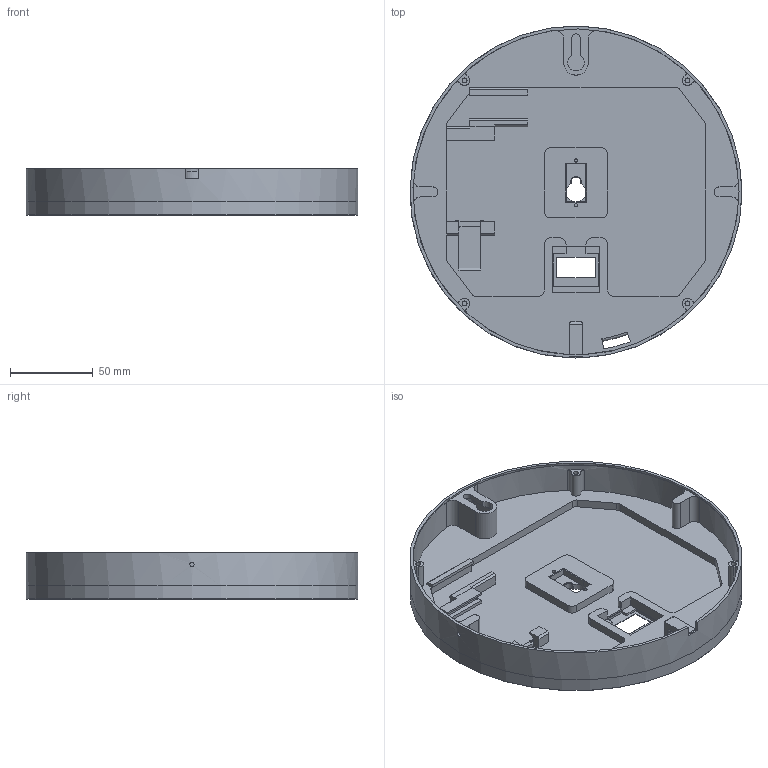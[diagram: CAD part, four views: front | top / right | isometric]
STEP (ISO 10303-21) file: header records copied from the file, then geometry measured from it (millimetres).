
FILE_DESCRIPTION(('FreeCAD Model'),'2;1');
FILE_NAME('Open CASCADE Shape Model','2024-03-23T00:14:03',(''),(''), 'Open CASCADE STEP processor 7.6','FreeCAD','Unknown');
FILE_SCHEMA(('AUTOMOTIVE_DESIGN { 1 0 10303 214 1 1 1 1 }'));
Length unit declared in the file: millimetre
Products named in the file (1): Backplate
Bounding box: 200 x 200 x 28 mm (x, y, z)
Volume: 195506.6 mm3; surface area: 107726.2 mm2
Topology: 1 solids, 1 shells, 265 faces, 723 edges, 469 vertices
Faces by surface type: plane 175, cylinder 80, cone 6, torus 3, bspline 1
Full cylindrical faces by diameter (mm): 2 x4, 2.5 x2, 3 x4, 182.5 x1, 200 x2
Entity records: 8847 total; most frequent: CARTESIAN_POINT 1949, ORIENTED_EDGE 1446, DIRECTION 1433, EDGE_CURVE 723, LINE 521, VECTOR 521, VERTEX_POINT 469, AXIS2_PLACEMENT_3D 456
